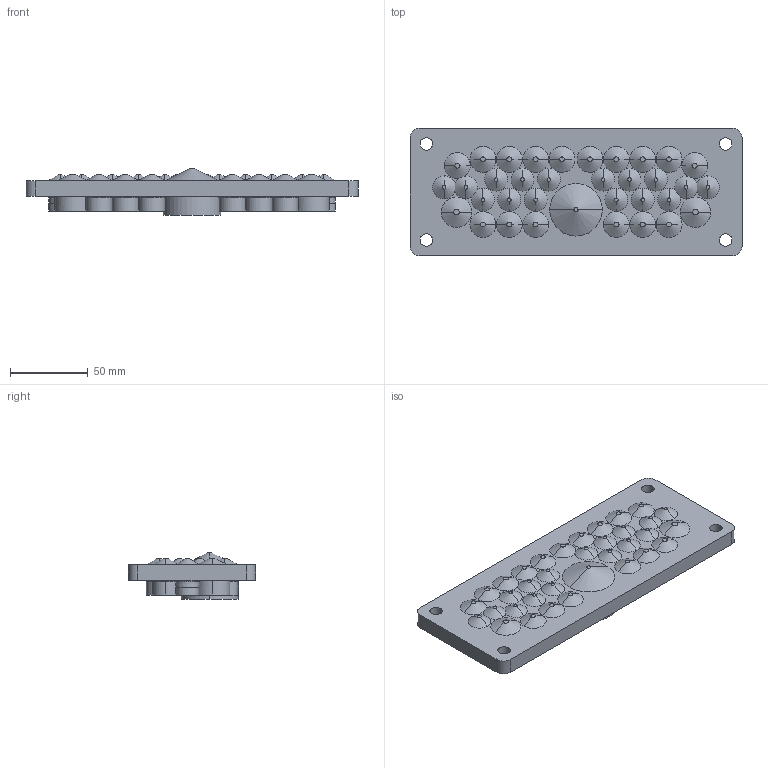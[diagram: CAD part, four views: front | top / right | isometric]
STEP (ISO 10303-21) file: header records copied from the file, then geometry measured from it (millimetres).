
FILE_DESCRIPTION (( 'STEP AP203' ), '1' );
FILE_NAME ('100244.STEP', '2012-12-11T05:23:18', ( 'Joni' ), ( 'Hewlett-Packard Company' ), 'SwSTEP 2.0', 'SolidWorks 2012', '' );
FILE_SCHEMA (( 'CONFIG_CONTROL_DESIGN' ));
Length unit declared in the file: millimetre
Products named in the file (1): 100244
Bounding box: 214 x 82 x 30 mm (x, y, z)
Volume: 255771.8 mm3; surface area: 65288.4 mm2
Topology: 1 solids, 1 shells, 558 faces, 1410 edges, 910 vertices
Faces by surface type: cylinder 196, torus 131, plane 118, cone 113
Entity records: 18142 total; most frequent: CARTESIAN_POINT 4102, DIRECTION 3263, ORIENTED_EDGE 2820, AXIS2_PLACEMENT_3D 1477, EDGE_CURVE 1410, CIRCLE 918, VERTEX_POINT 910, EDGE_LOOP 622
